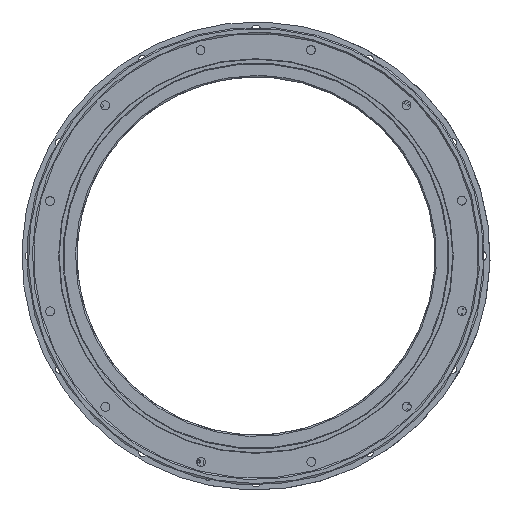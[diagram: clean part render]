
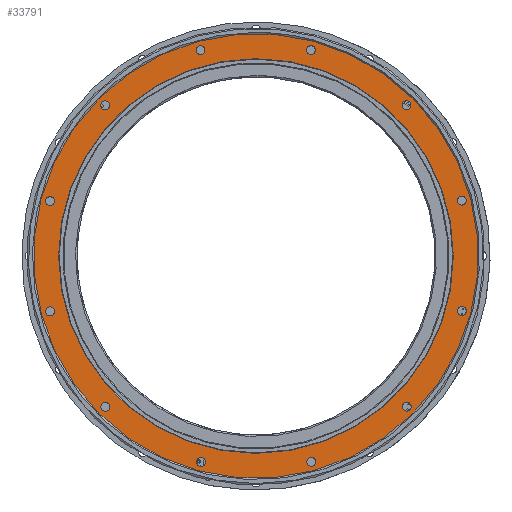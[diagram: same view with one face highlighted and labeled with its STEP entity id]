
A CAD part, left-side view. The second image highlights one B-rep face of the part: STEP entity #33791.
In plain terms, the highlighted planar face has unit normal (-1, 0, 0).
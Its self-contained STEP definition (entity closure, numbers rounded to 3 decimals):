
#33791=ADVANCED_FACE('',(#43259,#43260,#43261,#43262,#43263,#43264,#43265,
#43266,#43267,#43268,#43269,#43270,#43271,#43272),#39219,.T.);
#39219=PLANE('',#99226);
#43259=FACE_BOUND('',#43841,.T.);
#43260=FACE_BOUND('',#43842,.T.);
#43261=FACE_BOUND('',#43843,.T.);
#43262=FACE_BOUND('',#43844,.T.);
#43263=FACE_BOUND('',#43845,.T.);
#43264=FACE_BOUND('',#43846,.T.);
#43265=FACE_BOUND('',#43847,.T.);
#43266=FACE_BOUND('',#43848,.T.);
#43267=FACE_BOUND('',#43849,.T.);
#43268=FACE_BOUND('',#43850,.T.);
#43269=FACE_BOUND('',#43851,.T.);
#43270=FACE_BOUND('',#43852,.T.);
#43271=FACE_BOUND('',#43853,.T.);
#43272=FACE_BOUND('',#43854,.T.);
#43841=EDGE_LOOP('',(#49663));
#43842=EDGE_LOOP('',(#49664));
#43843=EDGE_LOOP('',(#49665));
#43844=EDGE_LOOP('',(#49666));
#43845=EDGE_LOOP('',(#49667));
#43846=EDGE_LOOP('',(#49668));
#43847=EDGE_LOOP('',(#49669));
#43848=EDGE_LOOP('',(#49670));
#43849=EDGE_LOOP('',(#49671));
#43850=EDGE_LOOP('',(#49672));
#43851=EDGE_LOOP('',(#49673));
#43852=EDGE_LOOP('',(#49674));
#43853=EDGE_LOOP('',(#49675));
#43854=EDGE_LOOP('',(#49676));
#49663=ORIENTED_EDGE('',*,*,#84108,.T.);
#49664=ORIENTED_EDGE('',*,*,#84109,.T.);
#49665=ORIENTED_EDGE('',*,*,#84110,.T.);
#49666=ORIENTED_EDGE('',*,*,#84111,.T.);
#49667=ORIENTED_EDGE('',*,*,#84112,.T.);
#49668=ORIENTED_EDGE('',*,*,#84113,.T.);
#49669=ORIENTED_EDGE('',*,*,#84114,.T.);
#49670=ORIENTED_EDGE('',*,*,#84115,.T.);
#49671=ORIENTED_EDGE('',*,*,#84116,.T.);
#49672=ORIENTED_EDGE('',*,*,#84117,.T.);
#49673=ORIENTED_EDGE('',*,*,#84118,.T.);
#49674=ORIENTED_EDGE('',*,*,#84119,.T.);
#49675=ORIENTED_EDGE('',*,*,#84120,.T.);
#49676=ORIENTED_EDGE('',*,*,#84121,.T.);
#75661=VERTEX_POINT('',#131913);
#75662=VERTEX_POINT('',#131916);
#75663=VERTEX_POINT('',#131918);
#75664=VERTEX_POINT('',#131920);
#75665=VERTEX_POINT('',#131922);
#75666=VERTEX_POINT('',#131924);
#75667=VERTEX_POINT('',#131926);
#75668=VERTEX_POINT('',#131928);
#75669=VERTEX_POINT('',#131930);
#75670=VERTEX_POINT('',#131932);
#75671=VERTEX_POINT('',#131934);
#75672=VERTEX_POINT('',#131936);
#75673=VERTEX_POINT('',#131938);
#75674=VERTEX_POINT('',#131940);
#84108=EDGE_CURVE('',#75661,#75661,#97117,.T.);
#84109=EDGE_CURVE('',#75662,#75662,#97118,.T.);
#84110=EDGE_CURVE('',#75663,#75663,#97119,.T.);
#84111=EDGE_CURVE('',#75664,#75664,#97120,.T.);
#84112=EDGE_CURVE('',#75665,#75665,#97121,.T.);
#84113=EDGE_CURVE('',#75666,#75666,#97122,.T.);
#84114=EDGE_CURVE('',#75667,#75667,#97123,.T.);
#84115=EDGE_CURVE('',#75668,#75668,#97124,.T.);
#84116=EDGE_CURVE('',#75669,#75669,#97125,.T.);
#84117=EDGE_CURVE('',#75670,#75670,#97126,.T.);
#84118=EDGE_CURVE('',#75671,#75671,#97127,.T.);
#84119=EDGE_CURVE('',#75672,#75672,#97128,.T.);
#84120=EDGE_CURVE('',#75673,#75673,#97129,.T.);
#84121=EDGE_CURVE('',#75674,#75674,#97130,.T.);
#97117=CIRCLE('',#99211,85.);
#97118=CIRCLE('',#99213,1.7);
#97119=CIRCLE('',#99214,1.7);
#97120=CIRCLE('',#99215,1.7);
#97121=CIRCLE('',#99216,1.7);
#97122=CIRCLE('',#99217,1.7);
#97123=CIRCLE('',#99218,1.7);
#97124=CIRCLE('',#99219,1.7);
#97125=CIRCLE('',#99220,1.7);
#97126=CIRCLE('',#99221,1.7);
#97127=CIRCLE('',#99222,1.7);
#97128=CIRCLE('',#99223,1.7);
#97129=CIRCLE('',#99224,1.7);
#97130=CIRCLE('',#99225,75.45);
#99211=AXIS2_PLACEMENT_3D('',#131912,#106659,#106660);
#99213=AXIS2_PLACEMENT_3D('',#131915,#106663,#106664);
#99214=AXIS2_PLACEMENT_3D('',#131917,#106665,#106666);
#99215=AXIS2_PLACEMENT_3D('',#131919,#106667,#106668);
#99216=AXIS2_PLACEMENT_3D('',#131921,#106669,#106670);
#99217=AXIS2_PLACEMENT_3D('',#131923,#106671,#106672);
#99218=AXIS2_PLACEMENT_3D('',#131925,#106673,#106674);
#99219=AXIS2_PLACEMENT_3D('',#131927,#106675,#106676);
#99220=AXIS2_PLACEMENT_3D('',#131929,#106677,#106678);
#99221=AXIS2_PLACEMENT_3D('',#131931,#106679,#106680);
#99222=AXIS2_PLACEMENT_3D('',#131933,#106681,#106682);
#99223=AXIS2_PLACEMENT_3D('',#131935,#106683,#106684);
#99224=AXIS2_PLACEMENT_3D('',#131937,#106685,#106686);
#99225=AXIS2_PLACEMENT_3D('',#131939,#106687,#106688);
#99226=AXIS2_PLACEMENT_3D('',#131941,#106689,#106690);
#106659=DIRECTION('',(-1.,0.,0.));
#106660=DIRECTION('',(0.,-0.258,0.966));
#106663=DIRECTION('',(1.,0.,0.));
#106664=DIRECTION('',(0.,0.966,0.258));
#106665=DIRECTION('',(1.,0.,0.));
#106666=DIRECTION('',(0.,0.966,-0.26));
#106667=DIRECTION('',(1.,0.,0.));
#106668=DIRECTION('',(0.,0.706,-0.708));
#106669=DIRECTION('',(1.,0.,0.));
#106670=DIRECTION('',(0.,0.258,-0.966));
#106671=DIRECTION('',(1.,0.,0.));
#106672=DIRECTION('',(0.,-0.26,-0.966));
#106673=DIRECTION('',(1.,0.,0.));
#106674=DIRECTION('',(0.,-0.708,-0.706));
#106675=DIRECTION('',(1.,0.,0.));
#106676=DIRECTION('',(0.,-0.966,-0.258));
#106677=DIRECTION('',(1.,0.,0.));
#106678=DIRECTION('',(0.,-0.966,0.26));
#106679=DIRECTION('',(1.,0.,0.));
#106680=DIRECTION('',(0.,-0.706,0.708));
#106681=DIRECTION('',(1.,0.,0.));
#106682=DIRECTION('',(0.,-0.258,0.966));
#106683=DIRECTION('',(1.,0.,0.));
#106684=DIRECTION('',(0.,0.26,0.966));
#106685=DIRECTION('',(1.,0.,0.));
#106686=DIRECTION('',(0.,0.708,0.706));
#106687=DIRECTION('',(1.,0.,0.));
#106688=DIRECTION('',(0.,-1.,0.));
#106689=DIRECTION('',(-1.,0.,0.));
#106690=DIRECTION('',(0.,-0.258,0.966));
#131912=CARTESIAN_POINT('',(5.6,0.,0.));
#131913=CARTESIAN_POINT('',(5.6,-21.917,82.126));
#131915=CARTESIAN_POINT('',(5.6,-21.014,78.744));
#131916=CARTESIAN_POINT('',(5.6,-19.372,79.183));
#131917=CARTESIAN_POINT('',(5.6,21.173,78.702));
#131918=CARTESIAN_POINT('',(5.6,22.815,78.26));
#131919=CARTESIAN_POINT('',(5.6,57.687,57.571));
#131920=CARTESIAN_POINT('',(5.6,58.888,56.368));
#131921=CARTESIAN_POINT('',(5.6,78.744,21.014));
#131922=CARTESIAN_POINT('',(5.6,79.183,19.372));
#131923=CARTESIAN_POINT('',(5.6,78.702,-21.173));
#131924=CARTESIAN_POINT('',(5.6,78.26,-22.815));
#131925=CARTESIAN_POINT('',(5.6,57.571,-57.687));
#131926=CARTESIAN_POINT('',(5.6,56.368,-58.888));
#131927=CARTESIAN_POINT('',(5.6,21.014,-78.744));
#131928=CARTESIAN_POINT('',(5.6,19.372,-79.183));
#131929=CARTESIAN_POINT('',(5.6,-21.173,-78.702));
#131930=CARTESIAN_POINT('',(5.6,-22.815,-78.26));
#131931=CARTESIAN_POINT('',(5.6,-57.687,-57.571));
#131932=CARTESIAN_POINT('',(5.6,-58.888,-56.368));
#131933=CARTESIAN_POINT('',(5.6,-78.744,-21.014));
#131934=CARTESIAN_POINT('',(5.6,-79.183,-19.372));
#131935=CARTESIAN_POINT('',(5.6,-78.702,21.173));
#131936=CARTESIAN_POINT('',(5.6,-78.26,22.815));
#131937=CARTESIAN_POINT('',(5.6,-57.571,57.687));
#131938=CARTESIAN_POINT('',(5.6,-56.368,58.888));
#131939=CARTESIAN_POINT('',(5.6,0.,0.));
#131940=CARTESIAN_POINT('',(5.6,-75.45,0.));
#131941=CARTESIAN_POINT('',(5.6,0.,0.));
